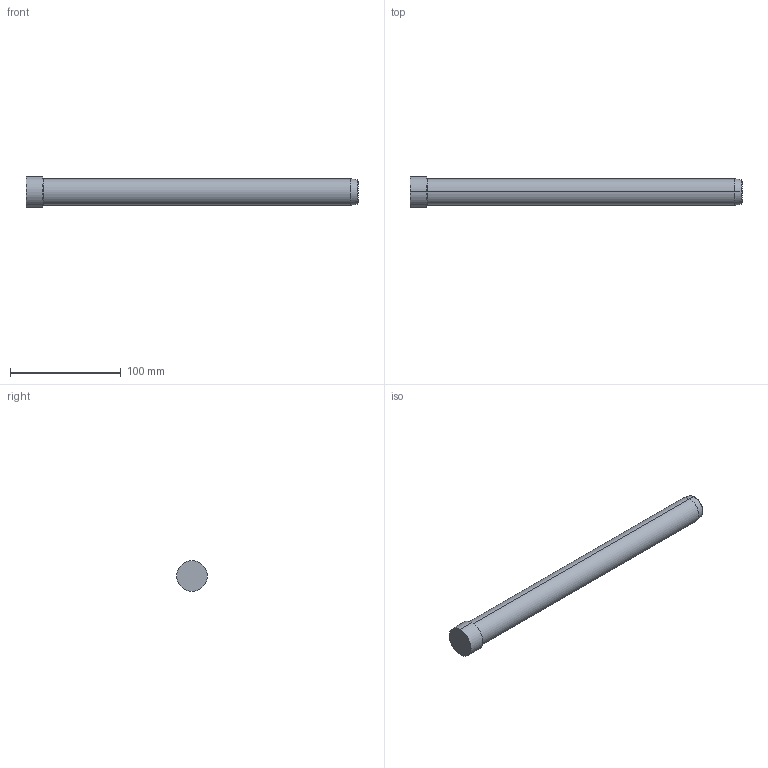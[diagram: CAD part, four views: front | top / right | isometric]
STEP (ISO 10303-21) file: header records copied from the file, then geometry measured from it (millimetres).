
FILE_DESCRIPTION( ( 'STEP AP203' ), '1' );
FILE_NAME( 'D:/Delta 3 D/D01D/24/D01D - 24x300.step', '2003-01-02T23:32:26', ( ' ' ), ( ' ' ), 'XStep 1.0', ' ', ' ' );
FILE_SCHEMA( ( 'CONFIG_CONTROL_DESIGN' ) );
Length unit declared in the file: metre
Products named in the file (1): 1
Bounding box: 300 x 28 x 28 mm (x, y, z)
Volume: 137834 mm3; surface area: 23948.9 mm2
Topology: 1 solids, 1 shells, 14 faces, 26 edges, 16 vertices
Faces by surface type: revolution 8, bspline 6
Entity records: 437 total; most frequent: CARTESIAN_POINT 121, ORIENTED_EDGE 52, DIRECTION 50, EDGE_CURVE 26, AXIS2_PLACEMENT_3D 17, EDGE_LOOP 16, VERTEX_POINT 16, CIRCLE 16
